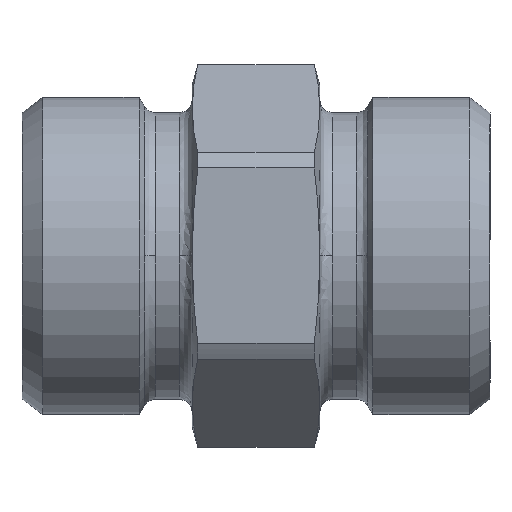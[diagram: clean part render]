
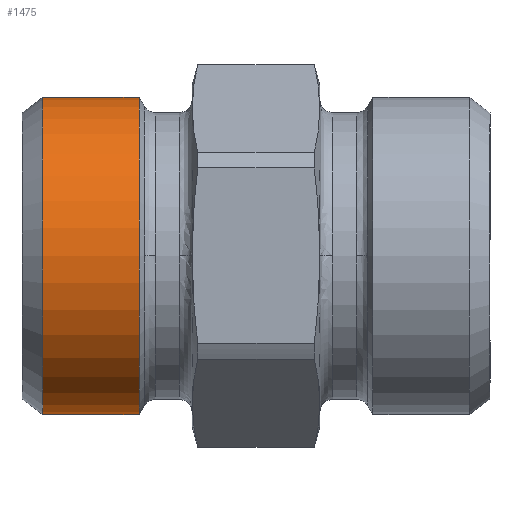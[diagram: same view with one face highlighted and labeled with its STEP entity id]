
A CAD part, top view. The second image highlights one B-rep face of the part: STEP entity #1475.
In plain terms, the highlighted cylindrical face has radius 14.91 mm (diameter 29.82 mm), a partial arc.
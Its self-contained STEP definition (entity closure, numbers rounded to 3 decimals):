
#859=CARTESIAN_POINT('',(0.,-14.91,20.063));
#860=VERTEX_POINT('',#859);
#861=CARTESIAN_POINT('',(0.,-14.91,10.993));
#862=VERTEX_POINT('',#861);
#863=CARTESIAN_POINT('',(0.,-14.91,20.063));
#864=DIRECTION('',(0.0,0.0,-1.0));
#865=VECTOR('',#864,9.07);
#866=LINE('',#863,#865);
#867=EDGE_CURVE('',#860,#862,#866,.T.);
#869=CARTESIAN_POINT('',(0.,14.91,20.063));
#870=VERTEX_POINT('',#869);
#878=CARTESIAN_POINT('',(0.,14.91,10.993));
#879=VERTEX_POINT('',#878);
#880=CARTESIAN_POINT('',(0.,14.91,10.993));
#881=DIRECTION('',(0.0,0.0,1.0));
#882=VECTOR('',#881,9.07);
#883=LINE('',#880,#882);
#884=EDGE_CURVE('',#879,#870,#883,.T.);
#1351=CARTESIAN_POINT('',(0.,0.,10.993));
#1352=DIRECTION('',(0.0,0.0,-1.0));
#1353=DIRECTION('',(0.0,-1.0,0.0));
#1354=AXIS2_PLACEMENT_3D('',#1351,#1352,#1353);
#1355=CIRCLE('',#1354,14.91);
#1356=EDGE_CURVE('',#879,#862,#1355,.T.);
#1452=CARTESIAN_POINT('',(0.,0.,20.063));
#1453=DIRECTION('',(0.0,0.0,-1.0));
#1454=DIRECTION('',(0.0,-1.0,0.0));
#1455=AXIS2_PLACEMENT_3D('',#1452,#1453,#1454);
#1456=CIRCLE('',#1455,14.91);
#1457=EDGE_CURVE('',#870,#860,#1456,.T.);
#1464=CARTESIAN_POINT('',(0.,0.,15.528));
#1465=DIRECTION('',(0.,0.,-1.0));
#1466=DIRECTION('',(0.0,-1.0,0.0));
#1467=AXIS2_PLACEMENT_3D('',#1464,#1465,#1466);
#1468=CYLINDRICAL_SURFACE('',#1467,14.91);
#1469=ORIENTED_EDGE('',*,*,#867,.T.);
#1470=ORIENTED_EDGE('',*,*,#1356,.F.);
#1471=ORIENTED_EDGE('',*,*,#884,.T.);
#1472=ORIENTED_EDGE('',*,*,#1457,.T.);
#1473=EDGE_LOOP('',(#1469,#1470,#1471,#1472));
#1474=FACE_OUTER_BOUND('',#1473,.T.);
#1475=ADVANCED_FACE('',(#1474),#1468,.T.);
